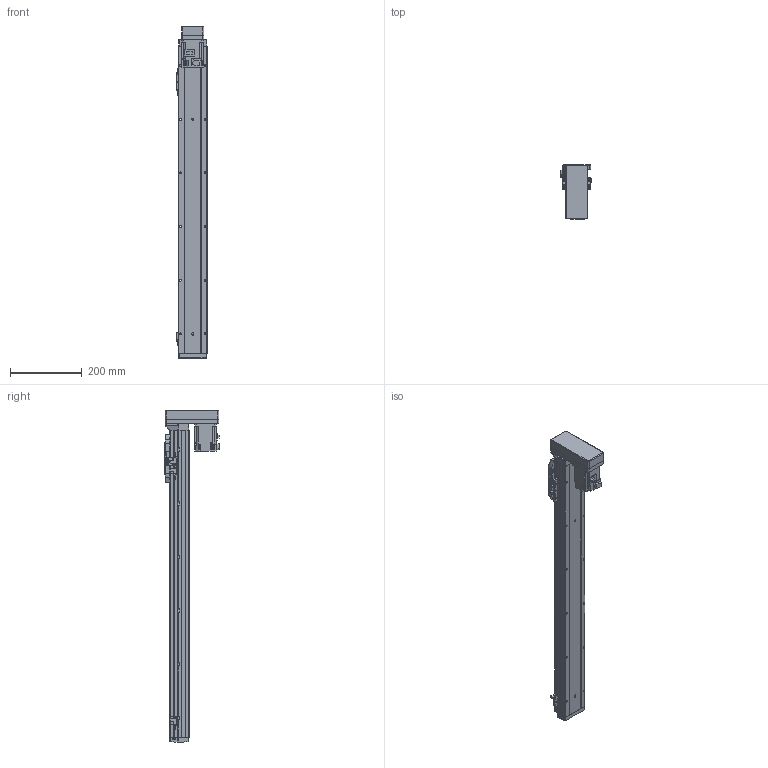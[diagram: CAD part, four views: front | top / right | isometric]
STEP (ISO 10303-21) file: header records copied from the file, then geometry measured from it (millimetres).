
FILE_DESCRIPTION (( 'STEP AP214' ), '1' );
FILE_NAME ('GSH8-700-BM-M20-1.step', '2025-01-07T06:08:59', ( '' ), ( '' ), 'SwSTEP 2.0', 'SolidWorks 2012', '' );
FILE_SCHEMA (( 'AUTOMOTIVE_DESIGN' ));
Length unit declared in the file: millimetre
Products named in the file (5): GSH8-BL-008; GSH8-700-BM-M20-1; GSH8-BL-011-700-M20; HG-KR23_200W_Motor; GSH8-GY-004
Assembly tree (4 placements, depth 2):
  GSH8-700-BM-M20-1
    GSH8-BL-011-700-M20
    GSH8-GY-004
    GSH8-BL-008
    HG-KR23_200W_Motor
Bounding box: 84 x 152.3 x 928.2 mm (x, y, z)
Volume: 2230764.6 mm3; surface area: 562961.2 mm2
Topology: 4 solids, 8 shells, 1133 faces, 2972 edges, 1912 vertices
Faces by surface type: plane 642, cylinder 395, torus 42, cone 26, bspline 24, sphere 4
Entity records: 44302 total; most frequent: CARTESIAN_POINT 9966, DIRECTION 6032, ORIENTED_EDGE 5928, EDGE_CURVE 2964, AXIS2_PLACEMENT_3D 2030, VECTOR 1972, LINE 1972, VERTEX_POINT 1908
